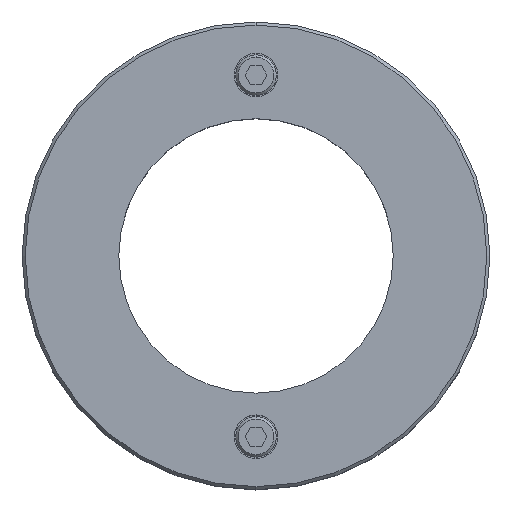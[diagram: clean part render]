
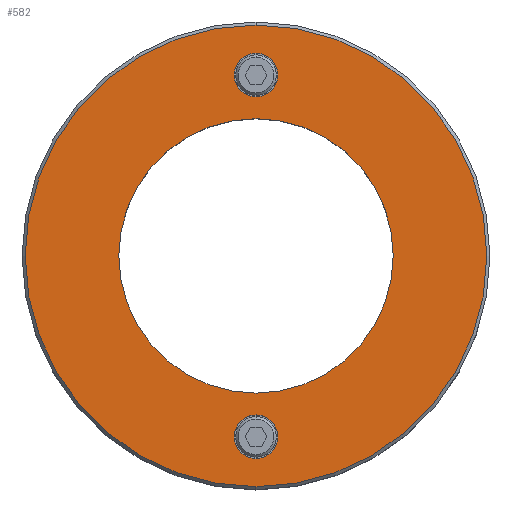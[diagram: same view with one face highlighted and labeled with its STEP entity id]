
A CAD part, top view. The second image highlights one B-rep face of the part: STEP entity #582.
In plain terms, the highlighted planar face has unit normal (0, 0, 1).
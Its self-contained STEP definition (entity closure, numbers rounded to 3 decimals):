
#105=VERTEX_POINT(' ',#106);
#106=CARTESIAN_POINT('',(0.,44.,40.));
#107=VERTEX_POINT(' ',#108);
#108=CARTESIAN_POINT('',(0.,-44.,40.));
#117=VERTEX_POINT(' ',#118);
#118=CARTESIAN_POINT('',(0.,65.,40.));
#119=VERTEX_POINT(' ',#120);
#120=CARTESIAN_POINT('',(0.,51.,40.));
#125=VERTEX_POINT(' ',#126);
#126=CARTESIAN_POINT('',(0.,-51.,40.));
#127=VERTEX_POINT(' ',#128);
#128=CARTESIAN_POINT('',(0.,-65.,40.));
#137=VERTEX_POINT(' ',#138);
#138=CARTESIAN_POINT('',(0.,-74.01,40.));
#139=VERTEX_POINT(' ',#140);
#140=CARTESIAN_POINT('',(0.,74.01,40.));
#199=CIRCLE('',#200,44.);
#200=AXIS2_PLACEMENT_3D('',#201,#202,#203);
#201=CARTESIAN_POINT('',(0.,0.,40.));
#202=DIRECTION('',(0.,0.,-1.));
#203=DIRECTION('',(-1.,0.,0.));
#204=EDGE_CURVE(' ',#105,#107,#199,.T.);
#205=CIRCLE('',#206,44.);
#206=AXIS2_PLACEMENT_3D('',#207,#208,#209);
#207=CARTESIAN_POINT('',(0.,0.,40.));
#208=DIRECTION('',(0.,0.,-1.));
#209=DIRECTION('',(1.,0.,0.));
#210=EDGE_CURVE(' ',#107,#105,#205,.T.);
#255=CIRCLE('',#256,7.);
#256=AXIS2_PLACEMENT_3D('',#257,#258,#259);
#257=CARTESIAN_POINT('',(0.,58.,40.));
#258=DIRECTION('',(0.,0.,1.));
#259=DIRECTION('',(1.,0.,0.));
#260=EDGE_CURVE(' ',#117,#119,#255,.T.);
#277=CIRCLE('',#278,7.);
#278=AXIS2_PLACEMENT_3D('',#279,#280,#281);
#279=CARTESIAN_POINT('',(0.,58.,40.));
#280=DIRECTION('',(0.,0.,1.));
#281=DIRECTION('',(-1.,0.,0.));
#282=EDGE_CURVE(' ',#119,#117,#277,.T.);
#289=CIRCLE('',#290,7.);
#290=AXIS2_PLACEMENT_3D('',#291,#292,#293);
#291=CARTESIAN_POINT('',(0.,-58.,40.));
#292=DIRECTION('',(0.,0.,1.));
#293=DIRECTION('',(1.,0.,0.));
#294=EDGE_CURVE(' ',#125,#127,#289,.T.);
#311=CIRCLE('',#312,7.);
#312=AXIS2_PLACEMENT_3D('',#313,#314,#315);
#313=CARTESIAN_POINT('',(0.,-58.,40.));
#314=DIRECTION('',(0.,0.,1.));
#315=DIRECTION('',(-1.,0.,0.));
#316=EDGE_CURVE(' ',#127,#125,#311,.T.);
#345=CIRCLE('',#346,74.01);
#346=AXIS2_PLACEMENT_3D('',#347,#348,#349);
#347=CARTESIAN_POINT('',(0.,0.,40.));
#348=DIRECTION('',(0.,0.,1.));
#349=DIRECTION('',(-1.,0.,0.));
#350=EDGE_CURVE(' ',#139,#137,#345,.F.);
#351=CIRCLE('',#352,74.01);
#352=AXIS2_PLACEMENT_3D('',#353,#354,#355);
#353=CARTESIAN_POINT('',(0.,0.,40.));
#354=DIRECTION('',(0.,0.,1.));
#355=DIRECTION('',(1.,0.,0.));
#356=EDGE_CURVE(' ',#137,#139,#351,.F.);
#561=ORIENTED_EDGE('',*,*,#350,.F.);
#562=ORIENTED_EDGE('',*,*,#356,.F.);
#563=EDGE_LOOP('',(#561,#562));
#564=FACE_OUTER_BOUND('',#563,.T.);
#565=ORIENTED_EDGE('',*,*,#316,.F.);
#566=ORIENTED_EDGE('',*,*,#294,.F.);
#567=EDGE_LOOP('',(#565,#566));
#568=FACE_BOUND('',#567,.T.);
#569=ORIENTED_EDGE('',*,*,#282,.F.);
#570=ORIENTED_EDGE('',*,*,#260,.F.);
#571=EDGE_LOOP('',(#569,#570));
#572=FACE_BOUND('',#571,.T.);
#573=ORIENTED_EDGE('',*,*,#204,.T.);
#574=ORIENTED_EDGE('',*,*,#210,.T.);
#575=EDGE_LOOP('',(#573,#574));
#576=FACE_BOUND('',#575,.T.);
#577=PLANE('',#578);
#578=AXIS2_PLACEMENT_3D('',#579,#580,#581);
#579=CARTESIAN_POINT('',(75.,0.,40.));
#580=DIRECTION('',(0.,0.,1.));
#581=DIRECTION('',(0.,1.,0.));
#582=ADVANCED_FACE('',(#564,#568,#572,#576),#577,.T.);
